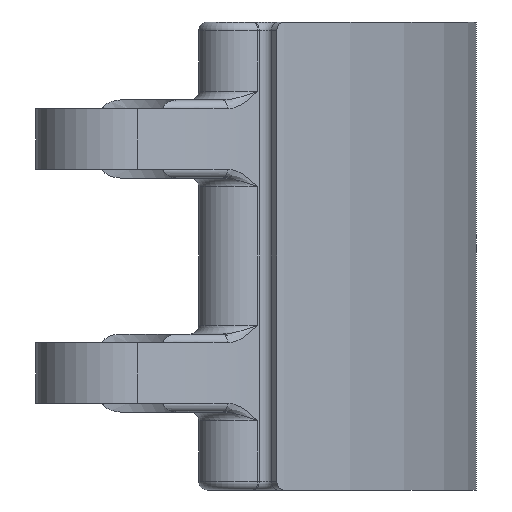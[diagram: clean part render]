
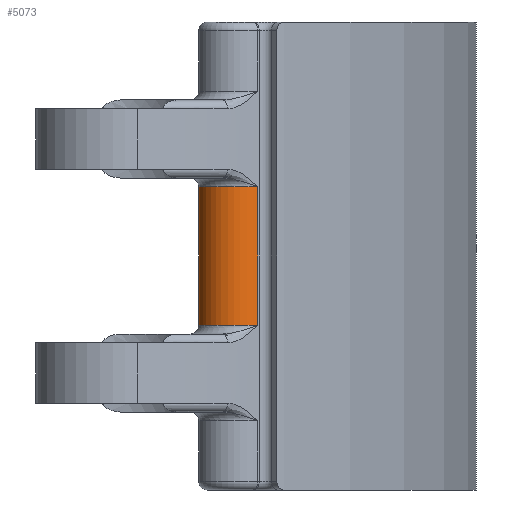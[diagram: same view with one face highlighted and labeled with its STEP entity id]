
A CAD part, left-side view. The second image highlights one B-rep face of the part: STEP entity #5073.
In plain terms, the highlighted cylindrical face has radius 4.25 mm (diameter 8.5 mm), a partial arc.
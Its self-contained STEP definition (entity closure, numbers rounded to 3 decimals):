
#1496 = VERTEX_POINT('',#1497);
#1497 = CARTESIAN_POINT('',(-47.363,-36.834,-8.));
#1509 = TOROIDAL_SURFACE('',#1510,5.25,1.);
#1510 = AXIS2_PLACEMENT_3D('',#1511,#1512,#1513);
#1511 = CARTESIAN_POINT('',(-44.008,-34.225,-8.));
#1512 = DIRECTION('',(0.,0.,1.));
#1513 = DIRECTION('',(1.,0.,0.));
#1780 = VERTEX_POINT('',#1781);
#1781 = CARTESIAN_POINT('',(-40.653,-31.616,-8.));
#1803 = EDGE_CURVE('',#1496,#1780,#1804,.T.);
#1804 = SURFACE_CURVE('',#1805,(#1810,#1817),.PCURVE_S1.);
#1805 = CIRCLE('',#1806,4.25);
#1806 = AXIS2_PLACEMENT_3D('',#1807,#1808,#1809);
#1807 = CARTESIAN_POINT('',(-44.008,-34.225,-8.));
#1808 = DIRECTION('',(0.,0.,-1.));
#1809 = DIRECTION('',(-1.,0.,0.));
#1810 = PCURVE('',#1509,#1811);
#1811 = DEFINITIONAL_REPRESENTATION('',(#1812),#1816);
#1812 = LINE('',#1813,#1814);
#1813 = CARTESIAN_POINT('',(9.425,3.142));
#1814 = VECTOR('',#1815,1.);
#1815 = DIRECTION('',(-1.,0.));
#1816 = ( GEOMETRIC_REPRESENTATION_CONTEXT(2) 
PARAMETRIC_REPRESENTATION_CONTEXT() REPRESENTATION_CONTEXT('2D SPACE',''
  ) );
#1817 = PCURVE('',#1818,#1823);
#1818 = CYLINDRICAL_SURFACE('',#1819,4.25);
#1819 = AXIS2_PLACEMENT_3D('',#1820,#1821,#1822);
#1820 = CARTESIAN_POINT('',(-44.008,-34.225,27.));
#1821 = DIRECTION('',(0.,0.,-1.));
#1822 = DIRECTION('',(-1.,0.,0.));
#1823 = DEFINITIONAL_REPRESENTATION('',(#1824),#1828);
#1824 = LINE('',#1825,#1826);
#1825 = CARTESIAN_POINT('',(-6.283,35.));
#1826 = VECTOR('',#1827,1.);
#1827 = DIRECTION('',(1.,0.));
#1828 = ( GEOMETRIC_REPRESENTATION_CONTEXT(2) 
PARAMETRIC_REPRESENTATION_CONTEXT() REPRESENTATION_CONTEXT('2D SPACE',''
  ) );
#2341 = CYLINDRICAL_SURFACE('',#2342,60.);
#2342 = AXIS2_PLACEMENT_3D('',#2343,#2344,#2345);
#2343 = CARTESIAN_POINT('',(0.,0.,18.));
#2344 = DIRECTION('',(0.,0.,-1.));
#2345 = DIRECTION('',(-1.,0.,0.));
#3707 = CYLINDRICAL_SURFACE('',#3708,51.5);
#3708 = AXIS2_PLACEMENT_3D('',#3709,#3710,#3711);
#3709 = CARTESIAN_POINT('',(0.,0.,27.));
#3710 = DIRECTION('',(0.,0.,-1.));
#3711 = DIRECTION('',(-1.,0.,0.));
#4285 = VERTEX_POINT('',#4286);
#4286 = CARTESIAN_POINT('',(-40.653,-31.616,8.));
#4294 = TOROIDAL_SURFACE('',#4295,5.25,1.);
#4295 = AXIS2_PLACEMENT_3D('',#4296,#4297,#4298);
#4296 = CARTESIAN_POINT('',(-44.008,-34.225,8.));
#4297 = DIRECTION('',(0.,0.,-1.));
#4298 = DIRECTION('',(-1.,0.,0.));
#4525 = VERTEX_POINT('',#4526);
#4526 = CARTESIAN_POINT('',(-47.363,-36.834,8.));
#4594 = EDGE_CURVE('',#4525,#4285,#4595,.T.);
#4595 = SURFACE_CURVE('',#4596,(#4601,#4608),.PCURVE_S1.);
#4596 = CIRCLE('',#4597,4.25);
#4597 = AXIS2_PLACEMENT_3D('',#4598,#4599,#4600);
#4598 = CARTESIAN_POINT('',(-44.008,-34.225,8.));
#4599 = DIRECTION('',(0.,0.,-1.));
#4600 = DIRECTION('',(-1.,0.,0.));
#4601 = PCURVE('',#4294,#4602);
#4602 = DEFINITIONAL_REPRESENTATION('',(#4603),#4607);
#4603 = LINE('',#4604,#4605);
#4604 = CARTESIAN_POINT('',(-6.283,3.142));
#4605 = VECTOR('',#4606,1.);
#4606 = DIRECTION('',(1.,0.));
#4607 = ( GEOMETRIC_REPRESENTATION_CONTEXT(2) 
PARAMETRIC_REPRESENTATION_CONTEXT() REPRESENTATION_CONTEXT('2D SPACE',''
  ) );
#4608 = PCURVE('',#1818,#4609);
#4609 = DEFINITIONAL_REPRESENTATION('',(#4610),#4614);
#4610 = LINE('',#4611,#4612);
#4611 = CARTESIAN_POINT('',(-6.283,19.));
#4612 = VECTOR('',#4613,1.);
#4613 = DIRECTION('',(1.,0.));
#4614 = ( GEOMETRIC_REPRESENTATION_CONTEXT(2) 
PARAMETRIC_REPRESENTATION_CONTEXT() REPRESENTATION_CONTEXT('2D SPACE',''
  ) );
#5073 = ADVANCED_FACE('',(#5074),#1818,.T.);
#5074 = FACE_BOUND('',#5075,.T.);
#5075 = EDGE_LOOP('',(#5076,#5077,#5098,#5099));
#5076 = ORIENTED_EDGE('',*,*,#4594,.T.);
#5077 = ORIENTED_EDGE('',*,*,#5078,.T.);
#5078 = EDGE_CURVE('',#4285,#1780,#5079,.T.);
#5079 = SURFACE_CURVE('',#5080,(#5084,#5091),.PCURVE_S1.);
#5080 = LINE('',#5081,#5082);
#5081 = CARTESIAN_POINT('',(-40.653,-31.616,8.));
#5082 = VECTOR('',#5083,1.);
#5083 = DIRECTION('',(0.,0.,-1.));
#5084 = PCURVE('',#1818,#5085);
#5085 = DEFINITIONAL_REPRESENTATION('',(#5086),#5090);
#5086 = LINE('',#5087,#5088);
#5087 = CARTESIAN_POINT('',(2.481,19.));
#5088 = VECTOR('',#5089,1.);
#5089 = DIRECTION('',(0.,1.));
#5090 = ( GEOMETRIC_REPRESENTATION_CONTEXT(2) 
PARAMETRIC_REPRESENTATION_CONTEXT() REPRESENTATION_CONTEXT('2D SPACE',''
  ) );
#5091 = PCURVE('',#3707,#5092);
#5092 = DEFINITIONAL_REPRESENTATION('',(#5093),#5097);
#5093 = LINE('',#5094,#5095);
#5094 = CARTESIAN_POINT('',(5.622,19.));
#5095 = VECTOR('',#5096,1.);
#5096 = DIRECTION('',(0.,1.));
#5097 = ( GEOMETRIC_REPRESENTATION_CONTEXT(2) 
PARAMETRIC_REPRESENTATION_CONTEXT() REPRESENTATION_CONTEXT('2D SPACE',''
  ) );
#5098 = ORIENTED_EDGE('',*,*,#1803,.F.);
#5099 = ORIENTED_EDGE('',*,*,#5100,.F.);
#5100 = EDGE_CURVE('',#4525,#1496,#5101,.T.);
#5101 = SURFACE_CURVE('',#5102,(#5106,#5113),.PCURVE_S1.);
#5102 = LINE('',#5103,#5104);
#5103 = CARTESIAN_POINT('',(-47.363,-36.834,8.));
#5104 = VECTOR('',#5105,1.);
#5105 = DIRECTION('',(0.,0.,-1.));
#5106 = PCURVE('',#1818,#5107);
#5107 = DEFINITIONAL_REPRESENTATION('',(#5108),#5112);
#5108 = LINE('',#5109,#5110);
#5109 = CARTESIAN_POINT('',(-0.661,19.));
#5110 = VECTOR('',#5111,1.);
#5111 = DIRECTION('',(0.,1.));
#5112 = ( GEOMETRIC_REPRESENTATION_CONTEXT(2) 
PARAMETRIC_REPRESENTATION_CONTEXT() REPRESENTATION_CONTEXT('2D SPACE',''
  ) );
#5113 = PCURVE('',#2341,#5114);
#5114 = DEFINITIONAL_REPRESENTATION('',(#5115),#5119);
#5115 = LINE('',#5116,#5117);
#5116 = CARTESIAN_POINT('',(5.622,10.));
#5117 = VECTOR('',#5118,1.);
#5118 = DIRECTION('',(0.,1.));
#5119 = ( GEOMETRIC_REPRESENTATION_CONTEXT(2) 
PARAMETRIC_REPRESENTATION_CONTEXT() REPRESENTATION_CONTEXT('2D SPACE',''
  ) );
